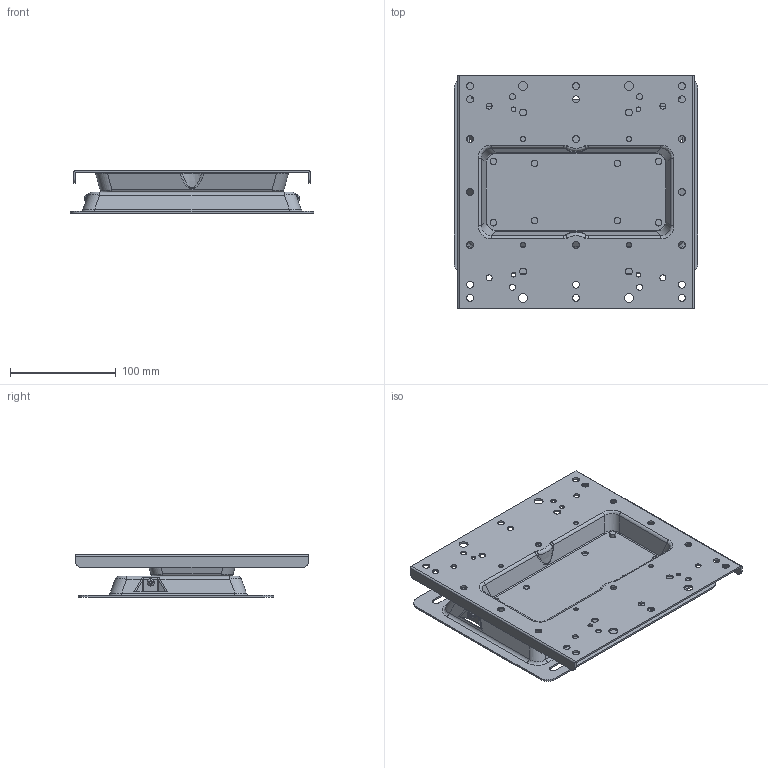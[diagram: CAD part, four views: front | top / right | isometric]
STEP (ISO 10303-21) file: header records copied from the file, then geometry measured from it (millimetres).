
FILE_DESCRIPTION((''),'2;1');
FILE_NAME('ASM-L2020_ASM','2023-01-09T17:16:32',('RICKO'),(''),'CREO PARAMETRIC BY PTC INC, 2019344','CREO PARAMETRIC BY PTC INC, 2019344','');
FILE_SCHEMA(('CONFIG_CONTROL_DESIGN'));
Length unit declared in the file: millimetre
Products named in the file (6): BKT-WALL-MOUNT-L2010-LOCK; BKT-TV-HOLD-L2020; PIN-BKT-HOLD-L2010; ASM-TV-HOLD-L2020_ASM; SCREW-P-S-W-M14-L16-WNI; ASM-L2020_ASM
Assembly tree (9 placements, depth 3):
  ASM-L2020_ASM
    BKT-WALL-MOUNT-L2010-LOCK
    ASM-TV-HOLD-L2020_ASM
      BKT-TV-HOLD-L2020
      PIN-BKT-HOLD-L2010  x4
    SCREW-P-S-W-M14-L16-WNI  x2
Bounding box: 230 x 220 x 40 mm (x, y, z)
Volume: 175966.3 mm3; surface area: 221062.8 mm2
Topology: 10 solids, 10 shells, 723 faces, 1815 edges, 1124 vertices
Faces by surface type: cylinder 365, plane 166, bspline 108, torus 56, cone 28
Entity records: 25274 total; most frequent: CARTESIAN_POINT 11933, ORIENTED_EDGE 2818, DIRECTION 2640, EDGE_CURVE 1409, AXIS2_PLACEMENT_3D 1023, VERTEX_POINT 873, EDGE_LOOP 694, VECTOR 594
